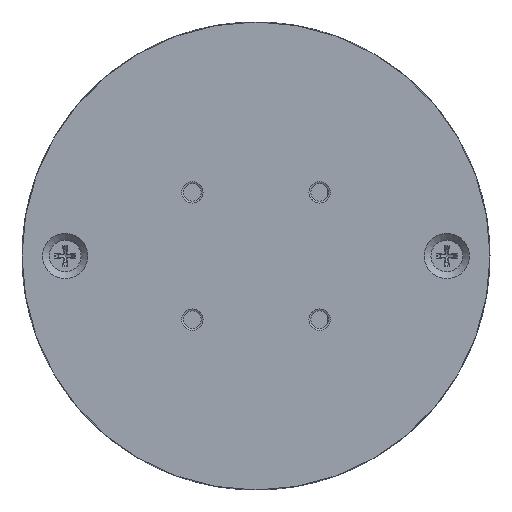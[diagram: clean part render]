
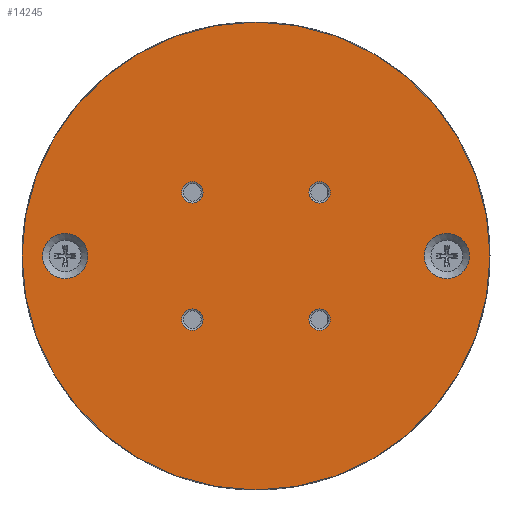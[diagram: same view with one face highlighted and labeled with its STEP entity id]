
A CAD part, front view. The second image highlights one B-rep face of the part: STEP entity #14245.
In plain terms, the highlighted planar face has unit normal (0, -1, 0) as drawn and (0, 0, -1) by its records, which use the part's own axes.
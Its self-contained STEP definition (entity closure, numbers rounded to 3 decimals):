
#371=FACE_BOUND('',#2112,.T.);
#372=FACE_BOUND('',#2113,.T.);
#373=FACE_BOUND('',#2114,.T.);
#374=FACE_BOUND('',#2115,.T.);
#375=FACE_BOUND('',#2116,.T.);
#376=FACE_BOUND('',#2117,.T.);
#465=CIRCLE('',#15884,3.15);
#468=CIRCLE('',#15889,3.15);
#472=CIRCLE('',#15895,1.5);
#474=CIRCLE('',#15898,1.5);
#476=CIRCLE('',#15901,1.5);
#478=CIRCLE('',#15904,1.5);
#480=CIRCLE('',#15907,32.5);
#1230=FACE_OUTER_BOUND('',#2111,.T.);
#2111=EDGE_LOOP('',(#12039));
#2112=EDGE_LOOP('',(#12040));
#2113=EDGE_LOOP('',(#12041));
#2114=EDGE_LOOP('',(#12042));
#2115=EDGE_LOOP('',(#12043));
#2116=EDGE_LOOP('',(#12044));
#2117=EDGE_LOOP('',(#12045));
#6298=VERTEX_POINT('',#23970);
#6301=VERTEX_POINT('',#23980);
#6305=VERTEX_POINT('',#23992);
#6307=VERTEX_POINT('',#23998);
#6309=VERTEX_POINT('',#24004);
#6311=VERTEX_POINT('',#24010);
#6313=VERTEX_POINT('',#24016);
#8221=EDGE_CURVE('',#6298,#6298,#465,.T.);
#8226=EDGE_CURVE('',#6301,#6301,#468,.T.);
#8233=EDGE_CURVE('',#6305,#6305,#472,.T.);
#8236=EDGE_CURVE('',#6307,#6307,#474,.T.);
#8239=EDGE_CURVE('',#6309,#6309,#476,.T.);
#8242=EDGE_CURVE('',#6311,#6311,#478,.T.);
#8245=EDGE_CURVE('',#6313,#6313,#480,.T.);
#12039=ORIENTED_EDGE('',*,*,#8245,.F.);
#12040=ORIENTED_EDGE('',*,*,#8221,.T.);
#12041=ORIENTED_EDGE('',*,*,#8226,.T.);
#12042=ORIENTED_EDGE('',*,*,#8242,.F.);
#12043=ORIENTED_EDGE('',*,*,#8239,.F.);
#12044=ORIENTED_EDGE('',*,*,#8236,.F.);
#12045=ORIENTED_EDGE('',*,*,#8233,.F.);
#13005=PLANE('',#15909);
#14245=ADVANCED_FACE('',(#1230,#371,#372,#373,#374,#375,#376),#13005,.F.);
#15884=AXIS2_PLACEMENT_3D('',#23971,#19721,#19722);
#15889=AXIS2_PLACEMENT_3D('',#23981,#19733,#19734);
#15895=AXIS2_PLACEMENT_3D('',#23994,#19748,#19749);
#15898=AXIS2_PLACEMENT_3D('',#24000,#19755,#19756);
#15901=AXIS2_PLACEMENT_3D('',#24006,#19762,#19763);
#15904=AXIS2_PLACEMENT_3D('',#24012,#19769,#19770);
#15907=AXIS2_PLACEMENT_3D('',#24018,#19776,#19777);
#15909=AXIS2_PLACEMENT_3D('',#24020,#19780,#19781);
#19721=DIRECTION('center_axis',(0.,0.,1.));
#19722=DIRECTION('ref_axis',(-1.,0.,0.));
#19733=DIRECTION('center_axis',(0.,0.,1.));
#19734=DIRECTION('ref_axis',(-1.,0.,0.));
#19748=DIRECTION('center_axis',(0.,0.,-1.));
#19749=DIRECTION('ref_axis',(-1.,0.,0.));
#19755=DIRECTION('center_axis',(0.,0.,-1.));
#19756=DIRECTION('ref_axis',(-1.,0.,0.));
#19762=DIRECTION('center_axis',(0.,0.,-1.));
#19763=DIRECTION('ref_axis',(-1.,0.,0.));
#19769=DIRECTION('center_axis',(0.,0.,-1.));
#19770=DIRECTION('ref_axis',(-1.,0.,0.));
#19776=DIRECTION('center_axis',(0.,0.,1.));
#19777=DIRECTION('ref_axis',(1.,0.,0.));
#19780=DIRECTION('center_axis',(0.,0.,1.));
#19781=DIRECTION('ref_axis',(1.,0.,0.));
#23970=CARTESIAN_POINT('',(3.15,-26.5,0.));
#23971=CARTESIAN_POINT('Origin',(0.,-26.5,0.));
#23980=CARTESIAN_POINT('',(3.15,26.5,0.));
#23981=CARTESIAN_POINT('Origin',(0.,26.5,0.));
#23992=CARTESIAN_POINT('',(10.339,-8.839,0.));
#23994=CARTESIAN_POINT('Origin',(8.839,-8.839,0.));
#23998=CARTESIAN_POINT('',(-7.339,-8.839,0.));
#24000=CARTESIAN_POINT('Origin',(-8.839,-8.839,0.));
#24004=CARTESIAN_POINT('',(-7.339,8.839,0.));
#24006=CARTESIAN_POINT('Origin',(-8.839,8.839,0.));
#24010=CARTESIAN_POINT('',(10.339,8.839,0.));
#24012=CARTESIAN_POINT('Origin',(8.839,8.839,0.));
#24016=CARTESIAN_POINT('',(-32.5,0.,0.));
#24018=CARTESIAN_POINT('Origin',(0.,0.,0.));
#24020=CARTESIAN_POINT('Origin',(0.,0.,0.));
